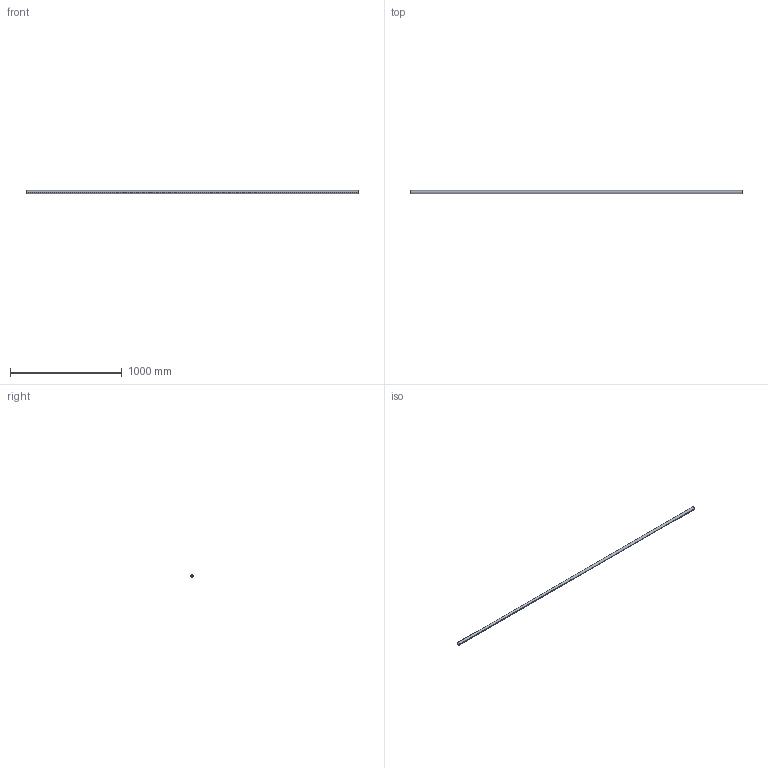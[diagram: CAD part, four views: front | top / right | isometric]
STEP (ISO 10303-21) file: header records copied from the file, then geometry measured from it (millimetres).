
FILE_DESCRIPTION (( 'STEP AP214' ), '1' );
FILE_NAME ('CCJ029-REP.342 - LISSE PLATEFORME SUPERIEURE C1-C3.STEP', '2025-11-04T13:09:15', ( '' ), ( '' ), 'SwSTEP 2.0', 'SolidWorks 2021', '' );
FILE_SCHEMA (( 'AUTOMOTIVE_DESIGN' ));
Length unit declared in the file: millimetre
Products named in the file (1): CCJ029-REP.342 - LISSE PLATEFORME SUPERIEURE C1-C3
Bounding box: 2974.5 x 26.9 x 26.9 mm (x, y, z)
Volume: 528721.3 mm3; surface area: 460113.1 mm2
Topology: 1 solids, 1 shells, 6 faces, 12 edges, 8 vertices
Faces by surface type: cylinder 4, plane 2
Entity records: 202 total; most frequent: DIRECTION 34, CARTESIAN_POINT 27, ORIENTED_EDGE 24, AXIS2_PLACEMENT_3D 15, EDGE_CURVE 12, VERTEX_POINT 8, CIRCLE 8, EDGE_LOOP 8
